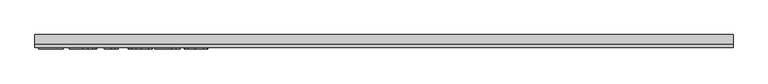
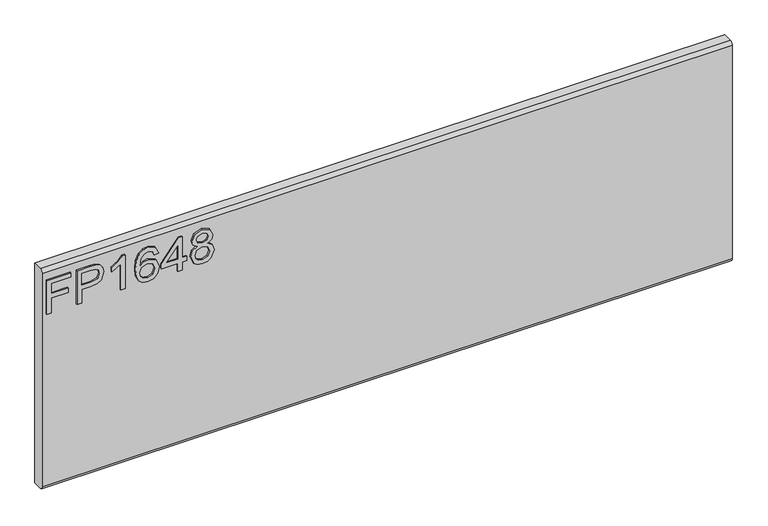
"""IFC4 building model written with IfcOpenShell, lengths in millimetres: furniture geometry."""

from ifc_helpers import new_model, si_unit, frame, origin, place, context, project, spatial, polyline, circle_curve, outline, extrude, source, transform, mapped, element, save
from ifc_brep_helpers import plane_surface, cylinder_surface, advanced_brep


def furniture_6d6b46e4(model_context):
    return source(origin(), model_context, "Body", "SolidModel", [
        extrude(outline(polyline([(1695.45, -596.4115385), (1695.45, -588.5961538), (1723.7807692, -588.5961538), (1723.7807692, -559.2884615), (1731.5961538, -559.2884615), (1731.5961538, -588.5961538), (1750.1576923, -588.5961538), (1750.1576923, -554.4038462), (1757.9730769, -554.4038462), (1757.9730769, -596.4115385), (1695.45, -596.4115385)])), frame((0.0, -15.0812439, 0.0), z_axis=(0.0, 1.0, 0.0), x_axis=(0.0, 0.0, 1.0)), (0.0, 0.0, 1.0), 2.38125),
        extrude(outline(polyline([(1695.45, -543.6576923), (1695.45, -535.8423077), (1720.85, -535.8423077), (1720.85, -519.9520433), (1722.2314303, -508.8490835), (1726.3757212, -501.795012), (1739.8847356, -496.7653846), (1748.4099159, -498.6276442), (1754.4546274, -503.5504207), (1757.3777644, -511.1444712), (1757.9730769, -520.4862981), (1757.9730769, -543.6576923), (1695.45, -543.6576923)]), holes=[polyline([(1728.6653846, -535.8423077), (1750.1576923, -535.8423077), (1750.1576923, -519.6772837), (1749.6234375, -511.861899), (1746.0820913, -506.5880409), (1739.609976, -504.5807692), (1731.5350962, -507.9847356), (1728.6653846, -519.4941106), (1728.6653846, -535.8423077)])]), frame((0.0, -15.0812439, 0.0), z_axis=(0.0, 1.0, 0.0), x_axis=(0.0, 0.0, 1.0)), (0.0, 0.0, 1.0), 2.38125),
        extrude(outline(polyline([(1695.45, -459.6423077), (1757.9730769, -459.6423077), (1757.9730769, -464.6795673), (1749.6539663, -471.632512), (1742.3423077, -483.0884615), (1734.9543269, -483.0884615), (1738.9001803, -474.8609375), (1744.1740385, -467.4576923), (1695.45, -467.4576923), (1695.45, -459.6423077)])), frame((0.0, -15.0812439, 0.0), z_axis=(0.0, 1.0, 0.0), x_axis=(0.0, 0.0, 1.0)), (0.0, 0.0, 1.0), 2.38125),
        extrude(outline(polyline([(1741.3653846, -401.0269231), (1753.5616587, -406.796875), (1757.9730769, -419.1457933), (1756.1909555, -428.2166767), (1750.8445913, -435.2192308), (1740.2014724, -440.3480769), (1724.6355769, -442.0576923), (1710.7907452, -440.5178936), (1701.4947115, -435.8984976), (1696.2284856, -428.8367939), (1694.4730769, -419.9700721), (1697.1214543, -409.7276442), (1704.7536659, -402.6296875), (1715.5379808, -400.05), (1729.9323317, -405.5299279), (1735.5038462, -418.809976), (1733.4660457, -427.3504207), (1727.2305288, -434.2423077), (1741.1593149, -432.0213341), (1748.2649038, -426.6864183), (1750.1576923, -419.6342548), (1746.9063702, -411.8036058), (1740.3884615, -408.8423077), (1741.3653846, -401.0269231)]), holes=[polyline([(1715.6600962, -434.2423077), (1724.3684495, -430.357512), (1727.6884615, -420.9012019), (1724.3684495, -411.3227764), (1715.2784856, -407.8653846), (1705.7840144, -411.3685697), (1702.2884615, -420.580649), (1703.9751803, -427.6251803), (1708.8903245, -432.4334736), (1715.6600962, -434.2423077)])]), frame((0.0, -15.0812439, 0.0), z_axis=(0.0, 1.0, 0.0), x_axis=(0.0, 0.0, 1.0)), (0.0, 0.0, 1.0), 2.38125),
        extrude(outline(polyline([(1695.45, -367.8115385), (1695.45, -359.9961538), (1710.1038462, -359.9961538), (1710.1038462, -352.1807692), (1717.9192308, -352.1807692), (1717.9192308, -359.9961538), (1756.9961538, -359.9961538), (1756.9961538, -365.8576923), (1717.9192308, -396.1423077), (1710.1038462, -396.1423077), (1710.1038462, -367.8115385), (1695.45, -367.8115385)]), holes=[polyline([(1717.9192308, -367.8115385), (1717.9192308, -386.5257212), (1742.0675481, -367.8115385), (1717.9192308, -367.8115385)])]), frame((0.0, -15.0812439, 0.0), z_axis=(0.0, 1.0, 0.0), x_axis=(0.0, 0.0, 1.0)), (0.0, 0.0, 1.0), 2.38125),
        extrude(outline(polyline([(1729.8865385, -333.9550481), (1724.2081731, -342.3810096), (1713.8588942, -345.3423077), (1700.0216947, -339.6944712), (1695.8602314, -333.1536659), (1694.4730769, -324.8269231), (1695.8545072, -316.5001803), (1699.9987981, -309.959375), (1713.6451923, -304.3115385), (1723.7578726, -307.1583534), (1729.8865385, -315.4698317), (1734.7177284, -308.5474159), (1742.0828125, -306.2653846), (1753.3479567, -311.3942308), (1757.9730769, -324.933774), (1753.4548077, -338.3512019), (1742.2965144, -343.3884615), (1734.740625, -341.0759014), (1729.8865385, -333.9550481)]), holes=[polyline([(1742.0675481, -335.5730769), (1747.7764423, -332.7567909), (1750.1576923, -324.8269231), (1747.7230168, -316.9199519), (1741.7164663, -314.0807692), (1735.9159856, -316.8283654), (1733.55, -324.7353365), (1735.93125, -332.8025841), (1742.0675481, -335.5730769)]), polyline([(1714.1336538, -337.5269231), (1722.4222356, -334.2221755), (1725.7346154, -325.0253606), (1722.3764423, -315.5614183), (1713.8894231, -312.1269231), (1705.5626803, -315.4545673), (1702.2884615, -324.7658654), (1703.8454327, -331.6043269), (1708.2492188, -336.2218149), (1714.1336538, -337.5269231)])]), frame((0.0, -15.0812439, 0.0), z_axis=(0.0, 1.0, 0.0), x_axis=(0.0, 0.0, 1.0)), (0.0, 0.0, 1.0), 2.38125),
        advanced_brep(
        [(603.25, 9.5250061, 1778.0), (603.25, -6.7309939, 1778.0), (603.25, -12.6999939, 1772.031), (603.25, -12.6999939, 1377.569), (603.25, -6.7309939, 1371.6), (603.25, 9.5250061, 1371.6), (-603.25, 9.5250061, 1778.0), (-603.25, 9.5250061, 1371.6), (-603.25, -6.7309939, 1371.6), (-603.25, -12.6999939, 1377.569), (-603.25, -12.6999939, 1772.0310121), (-603.25, -6.7309939, 1778.0)],
        [
            (0, 1),
            (1, 2, circle_curve(frame((603.25, -6.7309939, 1772.031), z_axis=(1.0, 0.0, 0.0), x_axis=(0.0, 1.0, 0.0)), 5.969)),
            (2, 3),
            (3, 4, circle_curve(frame((603.25, -6.7309939, 1377.569), z_axis=(1.0, 0.0, 0.0), x_axis=(0.0, 1.0, 0.0)), 5.969)),
            (4, 5),
            (5, 0),
            (6, 7),
            (7, 8),
            (8, 9, circle_curve(frame((-603.25, -6.7309939, 1377.569), z_axis=(-1.0, 0.0, 0.0), x_axis=(0.0, 1.0, 0.0)), 5.969)),
            (9, 10),
            (10, 11, circle_curve(frame((-603.25, -6.7309939, 1772.031), z_axis=(-1.0, 0.0, 0.0), x_axis=(0.0, 1.0, 0.0)), 5.969)),
            (11, 6),
            (0, 6),
            (11, 1),
            (10, 2),
            (9, 3),
            (8, 4),
            (7, 5),
        ],
        [
            plane_surface(frame((603.25, -6.7309939, 1778.0), z_axis=(1.0, 0.0, 0.0), x_axis=(0.0, -1.0, 0.0))),
            plane_surface(frame((-603.25, -6.7309939, 1778.0), z_axis=(-1.0, 0.0, 0.0), x_axis=(0.0, 1.0, 0.0))),
            plane_surface(frame((603.25, 9.5250061, 1778.0), z_axis=(0.0, 0.0, 1.0), x_axis=(-1.0, 0.0, 0.0))),
            cylinder_surface(frame((-603.25, -6.7309939, 1772.031), z_axis=(1.0, 0.0, 0.0), x_axis=(0.0, 1.0, 0.0)), 5.969),
            plane_surface(frame((603.25, -12.6999939, 1772.0310121), z_axis=(0.0, -1.0, 0.0), x_axis=(-1.0, 0.0, 0.0))),
            cylinder_surface(frame((-603.25, -6.7309939, 1377.569), z_axis=(1.0, 0.0, 0.0), x_axis=(0.0, 1.0, 0.0)), 5.969),
            plane_surface(frame((603.25, -6.7309939, 1371.6), z_axis=(0.0, 0.0, -1.0), x_axis=(-1.0, 0.0, 0.0))),
            plane_surface(frame((603.25, 9.5250061, 1371.6), z_axis=(0.0, 1.0, 0.0), x_axis=(-1.0, 0.0, 0.0))),
        ],
        [
            (0, [[1, 2, 3, 4, 5, 6]]),
            (1, [[7, 8, 9, 10, 11, 12]]),
            (2, [[-1, 13, -12, 14]]),
            (3, [[-2, -14, -11, 15]]),
            (4, [[-3, -15, -10, 16]]),
            (5, [[-4, -16, -9, 17]]),
            (6, [[-5, -17, -8, 18]]),
            (7, [[-6, -18, -7, -13]]),
        ],
    ),
    ])


if __name__ == "__main__":
    model = new_model("IFC4")
    model_context = context("Model", 3, world=origin())
    ifc_project = project(units=[si_unit("LENGTHUNIT", "METRE", prefix="MILLI")], contexts=[model_context])
    site = spatial("IfcSite", under=ifc_project)
    building = spatial("IfcBuilding", under=site)
    placement = place(None, origin())
    furniture_shape = furniture_6d6b46e4(model_context)
    element("IfcFurniture", 1, ObjectType="HermanMiller_Ethospace_E1420_FaceTile : Ptd 16\"H x 48\"W", at=placement, inside=building, context=model_context, shape_type="MappedRepresentation", body=[
        mapped(furniture_shape, transform((0.0, 0.0, 0.0), x_axis=(1.0, 0.0, 0.0), y_axis=(0.0, 1.0, 0.0), z_axis=(0.0, 0.0, 1.0))),
    ])
    save(model, "model.ifc")
